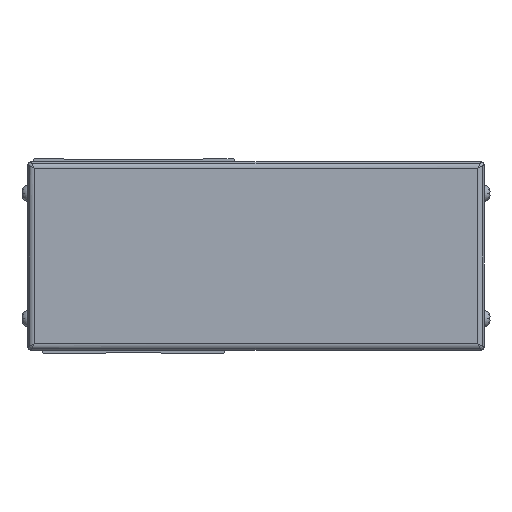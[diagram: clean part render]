
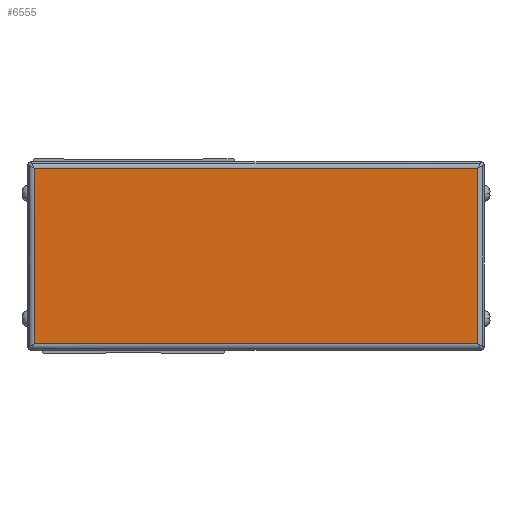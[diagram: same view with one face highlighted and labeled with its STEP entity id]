
A CAD part, front view. The second image highlights one B-rep face of the part: STEP entity #6555.
In plain terms, the highlighted planar face has unit normal (0, -1, 0).
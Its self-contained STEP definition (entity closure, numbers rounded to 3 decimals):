
#6555=ADVANCED_FACE('',(#13025),#13026,.T.);
#13025=FACE_OUTER_BOUND('',#20659,.T.);
#13026=PLANE('',#20660);
#20659=EDGE_LOOP('',(#38867,#38868,#38869,#38870));
#20660=AXIS2_PLACEMENT_3D('',#38871,#38872,#38873);
#38867=ORIENTED_EDGE('',*,*,#46587,.F.);
#38868=ORIENTED_EDGE('',*,*,#41891,.F.);
#38869=ORIENTED_EDGE('',*,*,#40038,.F.);
#38870=ORIENTED_EDGE('',*,*,#41267,.F.);
#38871=CARTESIAN_POINT('',(339.,181.,-4.));
#38872=DIRECTION('',(0.,-1.0,0.));
#38873=DIRECTION('',(0.,0.,1.0));
#40038=EDGE_CURVE('',#47745,#47747,#47748,.T.);
#41267=EDGE_CURVE('',#49868,#47745,#49870,.T.);
#41891=EDGE_CURVE('',#47747,#50899,#50900,.T.);
#46587=EDGE_CURVE('',#50899,#49868,#57340,.T.);
#47745=VERTEX_POINT('',#58965);
#47747=VERTEX_POINT('',#58967);
#47748=LINE('',#58968,#58969);
#49868=VERTEX_POINT('',#62023);
#49870=LINE('',#62025,#62026);
#50899=VERTEX_POINT('',#63494);
#50900=LINE('',#63495,#63496);
#57340=LINE('',#72670,#72671);
#58965=CARTESIAN_POINT('',(409.7,181.,-32.));
#58967=CARTESIAN_POINT('',(268.3,181.,-32.));
#58968=CARTESIAN_POINT('',(339.,181.,-32.));
#58969=VECTOR('',#73629,10.0);
#62023=CARTESIAN_POINT('',(409.7,181.,24.));
#62025=CARTESIAN_POINT('',(409.7,181.,-4.));
#62026=VECTOR('',#75057,10.0);
#63494=CARTESIAN_POINT('',(268.3,181.,24.));
#63495=CARTESIAN_POINT('',(268.3,181.,-4.));
#63496=VECTOR('',#75823,10.0);
#72670=CARTESIAN_POINT('',(339.,181.,24.));
#72671=VECTOR('',#80895,10.0);
#73629=DIRECTION('',(-1.0,0.,0.));
#75057=DIRECTION('',(0.,0.,-1.0));
#75823=DIRECTION('',(0.,0.,1.0));
#80895=DIRECTION('',(1.0,0.,0.));
